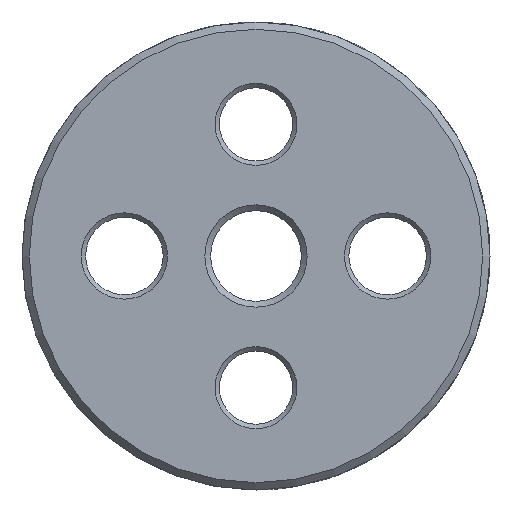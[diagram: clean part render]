
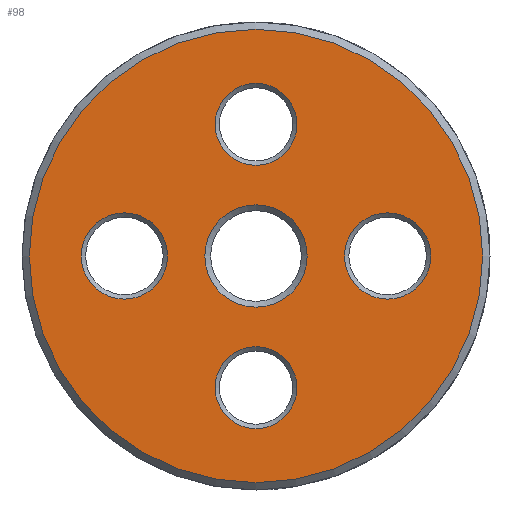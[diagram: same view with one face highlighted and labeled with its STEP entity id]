
A CAD part, front view. The second image highlights one B-rep face of the part: STEP entity #98.
In plain terms, the highlighted planar face has unit normal (0, -1, 0).
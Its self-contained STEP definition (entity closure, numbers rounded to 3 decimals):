
#98 = ADVANCED_FACE( '', ( #170, #171, #172, #173, #174, #175 ), #176, .F. );
#170 = FACE_BOUND( '', #269, .T. );
#171 = FACE_BOUND( '', #270, .T. );
#172 = FACE_BOUND( '', #271, .T. );
#173 = FACE_BOUND( '', #272, .T. );
#174 = FACE_BOUND( '', #273, .T. );
#175 = FACE_OUTER_BOUND( '', #274, .T. );
#176 = PLANE( '', #275 );
#269 = EDGE_LOOP( '', ( #488 ) );
#270 = EDGE_LOOP( '', ( #489 ) );
#271 = EDGE_LOOP( '', ( #490 ) );
#272 = EDGE_LOOP( '', ( #491 ) );
#273 = EDGE_LOOP( '', ( #492 ) );
#274 = EDGE_LOOP( '', ( #493 ) );
#275 = AXIS2_PLACEMENT_3D( '', #494, #495, #496 );
#488 = ORIENTED_EDGE( '', *, *, #627, .F. );
#489 = ORIENTED_EDGE( '', *, *, #616, .F. );
#490 = ORIENTED_EDGE( '', *, *, #628, .F. );
#491 = ORIENTED_EDGE( '', *, *, #629, .F. );
#492 = ORIENTED_EDGE( '', *, *, #630, .F. );
#493 = ORIENTED_EDGE( '', *, *, #601, .T. );
#494 = CARTESIAN_POINT( '', ( 15.5, 0., 0. ) );
#495 = DIRECTION( '', ( 0., 1., 0. ) );
#496 = DIRECTION( '', ( 0., 0., 1. ) );
#601 = EDGE_CURVE( '', #704, #704, #705, .T. );
#616 = EDGE_CURVE( '', #728, #728, #729, .F. );
#627 = EDGE_CURVE( '', #746, #746, #747, .T. );
#628 = EDGE_CURVE( '', #748, #748, #749, .T. );
#629 = EDGE_CURVE( '', #750, #750, #751, .T. );
#630 = EDGE_CURVE( '', #752, #752, #753, .T. );
#704 = VERTEX_POINT( '', #937 );
#705 = CIRCLE( '', #938, 15.5 );
#728 = VERTEX_POINT( '', #977 );
#729 = CIRCLE( '', #978, 2.95 );
#746 = VERTEX_POINT( '', #1005 );
#747 = CIRCLE( '', #1006, 3.5 );
#748 = VERTEX_POINT( '', #1007 );
#749 = CIRCLE( '', #1008, 2.8 );
#750 = VERTEX_POINT( '', #1009 );
#751 = CIRCLE( '', #1010, 2.8 );
#752 = VERTEX_POINT( '', #1011 );
#753 = CIRCLE( '', #1012, 2.95 );
#937 = CARTESIAN_POINT( '', ( 0., 0., -15.5 ) );
#938 = AXIS2_PLACEMENT_3D( '', #1096, #1097, #1098 );
#977 = CARTESIAN_POINT( '', ( 9., 0., 2.95 ) );
#978 = AXIS2_PLACEMENT_3D( '', #1124, #1125, #1126 );
#1005 = CARTESIAN_POINT( '', ( 0., 0., -3.5 ) );
#1006 = AXIS2_PLACEMENT_3D( '', #1146, #1147, #1148 );
#1007 = CARTESIAN_POINT( '', ( 0., 0., 6.2 ) );
#1008 = AXIS2_PLACEMENT_3D( '', #1149, #1150, #1151 );
#1009 = CARTESIAN_POINT( '', ( 0., 0., -11.8 ) );
#1010 = AXIS2_PLACEMENT_3D( '', #1152, #1153, #1154 );
#1011 = CARTESIAN_POINT( '', ( -9., 0., -2.95 ) );
#1012 = AXIS2_PLACEMENT_3D( '', #1155, #1156, #1157 );
#1096 = CARTESIAN_POINT( '', ( 0., 0., 0. ) );
#1097 = DIRECTION( '', ( 0., -1., 0. ) );
#1098 = DIRECTION( '', ( 0., 0., -1. ) );
#1124 = CARTESIAN_POINT( '', ( 9., 0., 0. ) );
#1125 = DIRECTION( '', ( 0., 1., 0. ) );
#1126 = DIRECTION( '', ( 0., 0., 1. ) );
#1146 = CARTESIAN_POINT( '', ( 0., 0., 0. ) );
#1147 = DIRECTION( '', ( 0., -1., 0. ) );
#1148 = DIRECTION( '', ( 0., 0., -1. ) );
#1149 = CARTESIAN_POINT( '', ( 0., 0., 9. ) );
#1150 = DIRECTION( '', ( 0., -1., 0. ) );
#1151 = DIRECTION( '', ( 0., 0., -1. ) );
#1152 = CARTESIAN_POINT( '', ( 0., 0., -9. ) );
#1153 = DIRECTION( '', ( 0., -1., 0. ) );
#1154 = DIRECTION( '', ( 0., 0., -1. ) );
#1155 = CARTESIAN_POINT( '', ( -9., 0., 0. ) );
#1156 = DIRECTION( '', ( 0., -1., 0. ) );
#1157 = DIRECTION( '', ( 0., 0., -1. ) );
